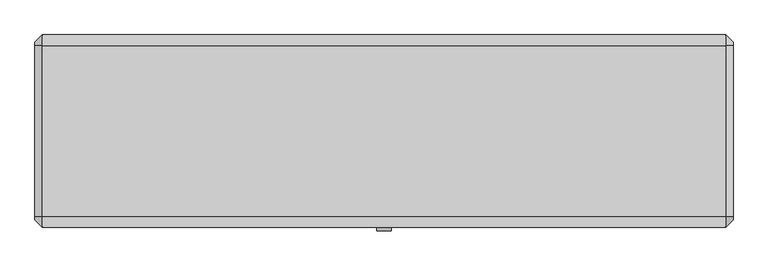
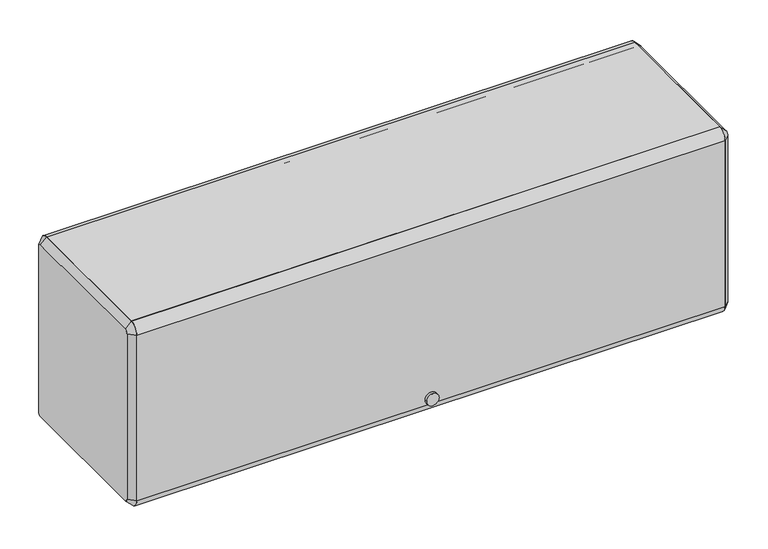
"""IFC4 building model written with IfcOpenShell, lengths in millimetres: furniture geometry."""

from ifc_helpers import new_model, si_unit, point, frame, frame_2d, origin, place, context, project, spatial, polyline, circle_curve, trimmed, segment, composite_curve, outline, extrude, source, transform, mapped, element, save
from ifc_brep_helpers import plane_surface, revolved_surface, advanced_brep


def furniture_9343bcb8(model_context):
    return source(origin(), model_context, "Body", "SolidModel", [
        extrude(outline(composite_curve([segment(polyline([(-136.525, 1727.2), (-136.525, 1739.9), (161.925, 1739.9)]), True, "CONTINUOUS"), segment(trimmed(circle_curve(frame_2d((161.925, 1720.85)), 19.05), [point((161.925, 1739.9))], [point((180.975, 1720.85))], False, "CARTESIAN"), True, "CONTINUOUS"), segment(polyline([(180.975, 1720.85), (168.275, 1720.85)]), True, "CONTINUOUS"), segment(trimmed(circle_curve(frame_2d((161.925, 1720.85)), 6.35), [point((168.275, 1720.85))], [point((161.925, 1727.2))], True, "CARTESIAN"), True, "CONTINUOUS"), segment(polyline([(161.925, 1727.2), (-136.525, 1727.2)]), True, "CONTINUOUS")], self_intersect=False)), frame((-596.9, 0.0, 0.0), z_axis=(1.0, 0.0, 0.0), x_axis=(0.0, 1.0, 0.0)), (0.0, 0.0, 1.0), 1193.8),
        extrude(outline(composite_curve([segment(trimmed(circle_curve(frame_2d((-136.525, 1720.85)), 19.05), [point((-155.575, 1720.85))], [point((-136.525, 1739.9))], False, "CARTESIAN"), True, "CONTINUOUS"), segment(polyline([(-136.525, 1739.9), (-136.525, 1727.2)]), True, "CONTINUOUS"), segment(trimmed(circle_curve(frame_2d((-136.525, 1720.85)), 6.35), [point((-136.525, 1727.2))], [point((-142.875, 1720.85))], True, "CARTESIAN"), True, "CONTINUOUS"), segment(polyline([(-142.875, 1720.85), (-142.875, 1365.25)]), True, "CONTINUOUS"), segment(trimmed(circle_curve(frame_2d((-136.525, 1365.25)), 6.35), [point((-142.875, 1365.25))], [point((-136.525, 1358.9))], True, "CARTESIAN"), True, "CONTINUOUS"), segment(polyline([(-136.525, 1358.9), (-136.525, 1346.2)]), True, "CONTINUOUS"), segment(trimmed(circle_curve(frame_2d((-136.525, 1365.25)), 19.05), [point((-136.525, 1346.2))], [point((-155.575, 1365.25))], False, "CARTESIAN"), True, "CONTINUOUS"), segment(polyline([(-155.575, 1365.25), (-155.575, 1720.85)]), True, "CONTINUOUS")], self_intersect=False)), frame((-596.9, 0.0, 0.0), z_axis=(1.0, 0.0, 0.0), x_axis=(0.0, 1.0, 0.0)), (0.0, 0.0, 1.0), 1193.8),
        extrude(outline(composite_curve([segment(trimmed(circle_curve(frame_2d((1377.9118906, 0.0201199)), 12.7253951), [point((1377.9118906, 12.745515))], [point((1377.9118906, -12.7052752))], False, "CARTESIAN"), True, "CONTINUOUS"), segment(trimmed(circle_curve(frame_2d((1377.9118906, 0.0201199)), 12.7253951), [point((1377.9118906, -12.7052752))], [point((1377.9118906, 12.745515))], False, "CARTESIAN"), True, "CONTINUOUS")], self_intersect=False)), frame((0.0, -161.925, 0.0), z_axis=(0.0, 1.0, 0.0), x_axis=(0.0, 0.0, 1.0)), (0.0, 0.0, 1.0), 6.35),
        extrude(outline(polyline([(-136.525, 1384.3), (161.925, 1384.3), (161.925, 1422.4), (174.625, 1422.4), (174.625, 1419.225), (165.1, 1419.225), (165.1, 1381.125), (-133.35, 1381.125), (-133.35, 1362.075), (-136.525, 1362.075), (-136.525, 1384.3)])), frame((-596.9, 0.0, 0.0), z_axis=(1.0, 0.0, 0.0), x_axis=(0.0, 1.0, 0.0)), (0.0, 0.0, 1.0), 1193.8),
        advanced_brep(
        [(609.6, 161.925, 1727.2), (609.6, -136.525, 1727.2), (609.6, -142.875, 1720.85), (609.6, -142.875, 1365.25), (609.6, -136.525, 1358.9), (609.6, 161.925, 1358.9), (609.6, 168.275, 1365.25), (609.6, 168.275, 1720.85), (596.9, 161.925, 1739.9), (596.9, 180.975, 1720.85), (596.9, 180.975, 1365.25), (596.9, 161.925, 1346.2), (596.9, -136.525, 1346.2), (596.9, -155.575, 1365.25), (596.9, -155.575, 1720.85), (596.9, -136.525, 1739.9)],
        [
            (0, 1),
            (1, 2, circle_curve(frame((609.6, -136.525, 1720.85), z_axis=(1.0, 6.493472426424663e-12, -6.5867311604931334e-12), x_axis=(6.586694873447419e-12, 0.0, 1.0)), 6.35)),
            (2, 3),
            (3, 4, circle_curve(frame((609.6, -136.525, 1365.25), z_axis=(1.0, 3.3733016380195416e-12, 3.3892888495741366e-12), x_axis=(3.3733436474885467e-12, -1.0, 0.0)), 6.35)),
            (4, 5),
            (5, 6, circle_curve(frame((609.6, 161.925, 1365.25), z_axis=(1.0, 3.37863070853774e-12, -3.3892888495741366e-12), x_axis=(-3.389358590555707e-12, 0.0, -1.0)), 6.35)),
            (6, 7),
            (7, 0, circle_curve(frame((609.6, 161.925, 1720.85), z_axis=(1.0, 6.4828142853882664e-12, 6.394884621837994e-12), x_axis=(-6.482754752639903e-12, 1.0, 0.0)), 6.35)),
            (8, 9, circle_curve(frame((596.9, 161.925, 1720.85), z_axis=(-1.0, -6.4828142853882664e-12, -6.394884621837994e-12), x_axis=(-6.482754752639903e-12, 1.0, 0.0)), 19.05)),
            (9, 10),
            (10, 11, circle_curve(frame((596.9, 161.925, 1365.25), z_axis=(-1.0, -3.37863070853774e-12, 3.3892888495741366e-12), x_axis=(-3.389358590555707e-12, 0.0, -1.0)), 19.05)),
            (11, 12),
            (12, 13, circle_curve(frame((596.9, -136.525, 1365.25), z_axis=(-1.0, -3.3733016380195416e-12, -3.3892888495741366e-12), x_axis=(3.3733436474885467e-12, -1.0, 0.0)), 19.05)),
            (13, 14),
            (14, 15, circle_curve(frame((596.9, -136.525, 1720.85), z_axis=(-1.0, -6.493472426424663e-12, 6.5867311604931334e-12), x_axis=(6.586694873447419e-12, 0.0, 1.0)), 19.05)),
            (15, 8),
            (15, 1),
            (0, 8),
            (14, 2),
            (13, 3),
            (12, 4),
            (11, 5),
            (10, 6),
            (9, 7),
        ],
        [
            plane_surface(frame((609.6, 12.7, 1543.05), z_axis=(1.0, 0.0, 0.0), x_axis=(0.0, -1.0, 0.0))),
            plane_surface(frame((596.9, 12.7, 1543.05), z_axis=(-1.0, 0.0, 0.0), x_axis=(0.0, -1.0, 0.0))),
            plane_surface(frame((596.9, 12.7, 1739.9), z_axis=(0.7071067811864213, 0.0, 0.7071067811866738), x_axis=(0.0, -1.0, 0.0))),
            revolved_surface(polyline([(609.6000000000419, -136.525, 1727.1999999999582), (596.9, -136.525, 1739.9)]), (615.95, -136.525, 1720.85), (-1.0, -6.493472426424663e-12, 6.5867311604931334e-12)),
            plane_surface(frame((596.9, -155.575, 1543.05), z_axis=(0.7071067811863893, -0.7071067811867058, 0.0), x_axis=(0.0, 0.0, -1.0))),
            revolved_surface(polyline([(609.6000000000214, -142.87499999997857, 1365.25), (596.8999999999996, -155.5750000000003, 1365.25)]), (615.95, -136.525, 1365.25), (-1.0, -3.3733016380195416e-12, -3.3892888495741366e-12)),
            plane_surface(frame((596.9, 12.7, 1346.2), z_axis=(0.7071067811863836, 0.0, -0.7071067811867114), x_axis=(0.0, 1.0, 0.0))),
            revolved_surface(polyline([(609.6, 161.925, 1358.9), (596.8999999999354, 161.925, 1346.1999999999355)]), (615.95, 161.925, 1365.25), (-1.0, -3.37863070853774e-12, 3.3892888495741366e-12)),
            plane_surface(frame((596.9, 180.975, 1543.05), z_axis=(0.7071067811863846, 0.7071067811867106, 0.0), x_axis=(0.0, 0.0, 1.0))),
            revolved_surface(polyline([(609.6, 168.275, 1720.85), (596.8999999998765, 180.9750000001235, 1720.85)]), (615.95, 161.925, 1720.85), (-1.0, -6.4828142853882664e-12, -6.394884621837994e-12)),
        ],
        [
            (0, [[1, 2, 3, 4, 5, 6, 7, 8]]),
            (1, [[9, 10, 11, 12, 13, 14, 15, 16]]),
            (2, [[-16, 17, -1, 18]]),
            (3, [[-15, 19, -2, -17]]),
            (4, [[-14, 20, -3, -19]]),
            (5, [[-13, 21, -4, -20]]),
            (6, [[-12, 22, -5, -21]]),
            (7, [[-11, 23, -6, -22]]),
            (8, [[-10, 24, -7, -23]]),
            (9, [[-9, -18, -8, -24]]),
        ],
    ),
        advanced_brep(
        [(-609.6, -136.525, 1727.2), (-609.6, 161.925, 1727.2), (-609.6, 168.275, 1720.85), (-609.6, 168.275, 1365.25), (-609.6, 161.925, 1358.9), (-609.6, -136.525, 1358.9), (-609.6, -142.875, 1365.25), (-609.6, -142.875, 1720.85), (-596.9, -136.525, 1739.9), (-596.9, -155.575, 1720.85), (-596.9, -155.575, 1365.25), (-596.9, -136.525, 1346.2), (-596.9, 161.925, 1346.2), (-596.9, 180.975, 1365.25), (-596.9, 180.975, 1720.85), (-596.9, 161.925, 1739.9)],
        [
            (0, 1),
            (1, 2, circle_curve(frame((-609.6, 161.925, 1720.85), z_axis=(-1.0, 3.365308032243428e-12, 3.453237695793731e-12), x_axis=(3.4532613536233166e-12, 0.0, 1.0)), 6.35)),
            (2, 3),
            (3, 4, circle_curve(frame((-609.6, 161.925, 1365.25), z_axis=(-1.0, 0.0, 0.0), x_axis=(0.0, 1.0, 0.0)), 6.35)),
            (4, 5),
            (5, 6, circle_curve(frame((-609.6, -136.525, 1365.25), z_axis=(-1.0, 0.0, 0.0), x_axis=(0.0, 0.0, -1.0)), 6.35)),
            (6, 7),
            (7, 0, circle_curve(frame((-609.6, -136.525, 1720.85), z_axis=(-1.0, 3.3839597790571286e-12, -3.3040237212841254e-12), x_axis=(-3.38402027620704e-12, -1.0, 0.0)), 6.35)),
            (8, 9, circle_curve(frame((-596.9, -136.525, 1720.85), z_axis=(1.0, -3.3839597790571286e-12, 3.3040237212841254e-12), x_axis=(-3.38402027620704e-12, -1.0, 0.0)), 19.05)),
            (9, 10),
            (10, 11, circle_curve(frame((-596.9, -136.525, 1365.25), z_axis=(1.0, 0.0, 0.0), x_axis=(0.0, 0.0, -1.0)), 19.05)),
            (11, 12),
            (12, 13, circle_curve(frame((-596.9, 161.925, 1365.25), z_axis=(1.0, 0.0, 0.0), x_axis=(0.0, 1.0, 0.0)), 19.05)),
            (13, 14),
            (14, 15, circle_curve(frame((-596.9, 161.925, 1720.85), z_axis=(1.0, -3.365308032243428e-12, -3.453237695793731e-12), x_axis=(3.4532613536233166e-12, 0.0, 1.0)), 19.05)),
            (15, 8),
            (15, 1),
            (0, 8),
            (14, 2),
            (13, 3),
            (12, 4),
            (11, 5),
            (10, 6),
            (9, 7),
        ],
        [
            plane_surface(frame((-609.6, 12.7, 1543.05), z_axis=(-1.0, 0.0, 0.0), x_axis=(0.0, -1.0, 0.0))),
            plane_surface(frame((-596.9, 12.7, 1543.05), z_axis=(1.0, 0.0, 0.0), x_axis=(0.0, -1.0, 0.0))),
            plane_surface(frame((-596.9, 12.7, 1739.9), z_axis=(-0.7071067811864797, 0.0, 0.7071067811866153), x_axis=(0.0, 1.0, 0.0))),
            revolved_surface(polyline([(-609.6, 161.925, 1727.2), (-596.8999999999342, 161.925, 1739.9000000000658)]), (-615.95, 161.925, 1720.85), (1.0, -3.365308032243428e-12, -3.453237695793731e-12)),
            plane_surface(frame((-596.9, 180.975, 1543.05), z_axis=(-0.7071067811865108, 0.7071067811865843, 0.0), x_axis=(0.0, 0.0, -1.0))),
            revolved_surface(polyline([(-609.6, 168.275, 1365.25), (-596.9, 180.975, 1365.25)]), (-615.95, 161.925, 1365.25), (1.0, 0.0, 0.0)),
            plane_surface(frame((-596.9, 12.7, 1346.2), z_axis=(-0.7071067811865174, 0.0, -0.7071067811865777), x_axis=(0.0, -1.0, 0.0))),
            revolved_surface(polyline([(-609.6, -136.525, 1358.9), (-596.9, -136.525, 1346.2)]), (-615.95, -136.525, 1365.25), (1.0, 0.0, 0.0)),
            plane_surface(frame((-596.9, -155.575, 1543.05), z_axis=(-0.7071067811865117, -0.7071067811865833, 0.0), x_axis=(0.0, 0.0, 1.0))),
            revolved_surface(polyline([(-609.6000000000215, -142.8749999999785, 1720.85), (-596.9, -155.575, 1720.85)]), (-615.95, -136.525, 1720.85), (1.0, -3.3839597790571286e-12, 3.3040237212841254e-12)),
        ],
        [
            (0, [[1, 2, 3, 4, 5, 6, 7, 8]]),
            (1, [[9, 10, 11, 12, 13, 14, 15, 16]]),
            (2, [[-16, 17, -1, 18]]),
            (3, [[-15, 19, -2, -17]]),
            (4, [[-14, 20, -3, -19]]),
            (5, [[-13, 21, -4, -20]]),
            (6, [[-12, 22, -5, -21]]),
            (7, [[-11, 23, -6, -22]]),
            (8, [[-10, 24, -7, -23]]),
            (9, [[-9, -18, -8, -24]]),
        ],
    ),
    ])


if __name__ == "__main__":
    model = new_model("IFC4")
    model_context = context("Model", 3, world=origin())
    ifc_project = project(units=[si_unit("LENGTHUNIT", "METRE", prefix="MILLI")], contexts=[model_context])
    site = spatial("IfcSite", under=ifc_project)
    building = spatial("IfcBuilding", under=site)
    placement = place(None, origin())
    furniture_shape = furniture_9343bcb8(model_context)
    element("IfcFurniture", 1, ObjectType="HermanMiller_ActionOffice_A3352_B-StyleFlipperDoorUnit : 15 1/2\"H x 13\"D x 48\"W", at=placement, inside=building, context=model_context, shape_type="MappedRepresentation", body=[
        mapped(furniture_shape, transform((0.0, 0.0, 0.0), x_axis=(1.0, 0.0, 0.0), y_axis=(0.0, 1.0, 0.0), z_axis=(0.0, 0.0, 1.0))),
    ])
    save(model, "model.ifc")
